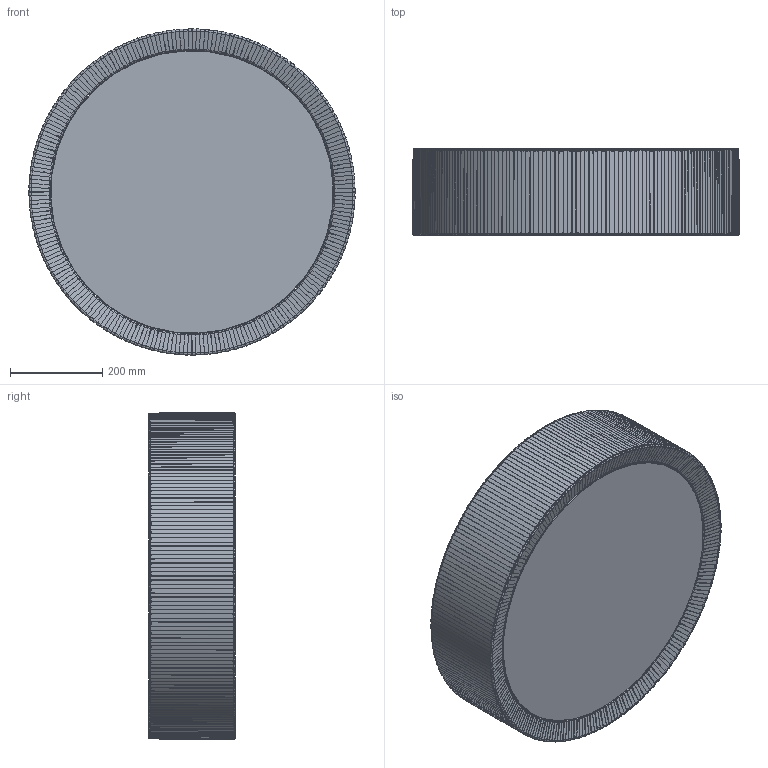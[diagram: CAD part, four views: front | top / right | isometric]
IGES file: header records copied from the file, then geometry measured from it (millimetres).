
Start section: SolidWorks IGES file using analytic representation for surfaces
Global section: file name: E:\3D lampy\Alehandro\Alehandro_5346\Alehandro 70.IGS; native system: SolidWorks 2016; preprocessor: SolidWorks 2016; author: Asia; date: 170428.153035; units: millimetre
Bounding box: 707.62 x 187.67 x 707.62 mm (x, y, z)
Surface area: 2507858.4 mm2 (no closed solid volume)
Topology: 0 solids, 0 shells, 4332 faces, 31488 edges, 31488 vertices
Faces by surface type: bspline 3850, revolution 482
